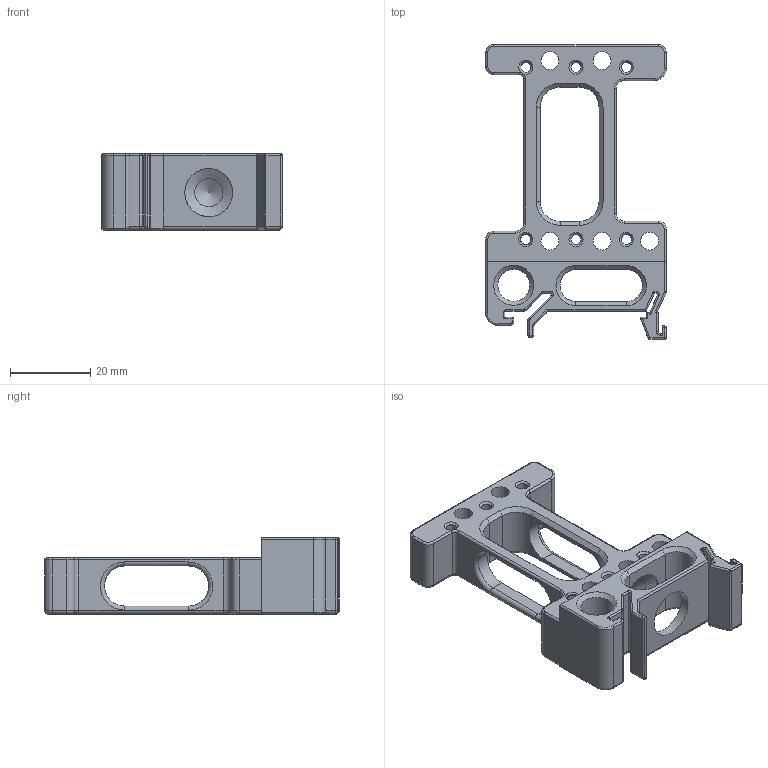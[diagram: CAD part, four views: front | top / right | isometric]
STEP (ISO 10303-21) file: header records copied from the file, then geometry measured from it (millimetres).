
FILE_DESCRIPTION(/* description */ (''),/* implementation_level */ '2;1');
FILE_NAME(/* name */ 'D:/3D Drucken/DIN Halter RJ45 v6.step',/* time_stamp */ '2018-07-17T07:03:06+02:00',/* author */ ('andreas.mosser'),/* organization */ (''),/* preprocessor_version */ 'ST-DEVELOPER v17',/* originating_system */ 'Autodesk Translation Framework v7.1.0.215',/* authorisation */ '');
FILE_SCHEMA (('AUTOMOTIVE_DESIGN { 1 0 10303 214 3 1 1 }'));
Length unit declared in the file: millimetre
Products named in the file (1): DIN Halter RJ45
Bounding box: 45 x 73.5 x 19 mm (x, y, z)
Volume: 19420.3 mm3; surface area: 12872.3 mm2
Topology: 2 solids, 2 shells, 313 faces, 790 edges, 461 vertices
Faces by surface type: cylinder 137, plane 79, torus 40, cone 28, bspline 25, sphere 4
Full cylindrical faces by diameter (mm): 2.5 x6, 4.5 x5, 8 x1, 12 x2
Entity records: 9805 total; most frequent: CARTESIAN_POINT 2149, DIRECTION 1716, ORIENTED_EDGE 1554, EDGE_CURVE 777, AXIS2_PLACEMENT_3D 678, VERTEX_POINT 461, LINE 360, VECTOR 360
